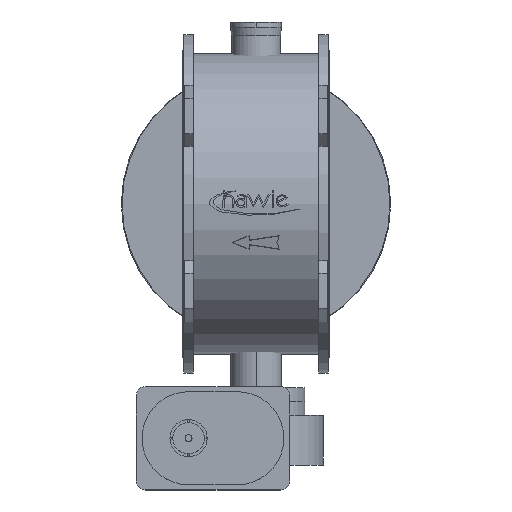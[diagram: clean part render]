
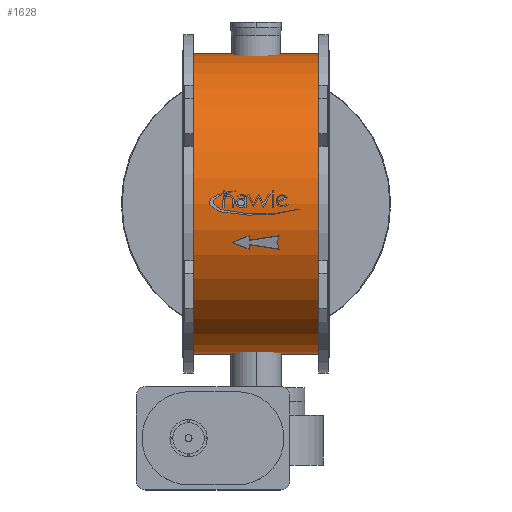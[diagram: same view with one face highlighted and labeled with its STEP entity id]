
A CAD part, top view. The second image highlights one B-rep face of the part: STEP entity #1628.
In plain terms, the highlighted cylindrical face has radius 646 mm (diameter 1292 mm), a partial arc.
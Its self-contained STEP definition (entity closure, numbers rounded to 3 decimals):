
#1628=ADVANCED_FACE('',(#3263),#3264,.T.);
#3263=FACE_OUTER_BOUND('',#5198,.T.);
#3264=CYLINDRICAL_SURFACE('',#5199,646.0);
#5198=EDGE_LOOP('',(#8397,#8398,#8399,#8400));
#5199=AXIS2_PLACEMENT_3D('',#8401,#8402,#8403);
#8397=ORIENTED_EDGE('',*,*,#11339,.T.);
#8398=ORIENTED_EDGE('',*,*,#11295,.T.);
#8399=ORIENTED_EDGE('',*,*,#11340,.T.);
#8400=ORIENTED_EDGE('',*,*,#10471,.T.);
#8401=CARTESIAN_POINT('',(-585.0,0.,0.0));
#8402=DIRECTION('',(1.0,0.,0.0));
#8403=DIRECTION('',(0.,-1.0,0.0));
#10471=EDGE_CURVE('',#12415,#12414,#12417,.T.);
#11295=EDGE_CURVE('',#13653,#13654,#13655,.T.);
#11339=EDGE_CURVE('',#12414,#13653,#13706,.T.);
#11340=EDGE_CURVE('',#13654,#12415,#13707,.T.);
#12414=VERTEX_POINT('',#15002);
#12415=VERTEX_POINT('',#15003);
#12417=CIRCLE('',#15005,646.0);
#13653=VERTEX_POINT('',#16534);
#13654=VERTEX_POINT('',#16535);
#13655=CIRCLE('',#16536,646.0);
#13706=LINE('',#16602,#16603);
#13707=LINE('',#16604,#16605);
#15002=CARTESIAN_POINT('',(-585.0,-646.0,0.0));
#15003=CARTESIAN_POINT('',(-585.0,646.0,0.));
#15005=AXIS2_PLACEMENT_3D('',#17716,#17717,#17718);
#16534=CARTESIAN_POINT('',(-45.0,-646.0,0.0));
#16535=CARTESIAN_POINT('',(-45.0,646.0,0.));
#16536=AXIS2_PLACEMENT_3D('',#18993,#18994,#18995);
#16602=CARTESIAN_POINT('',(-585.0,-646.0,0.));
#16603=VECTOR('',#19035,1.0);
#16604=CARTESIAN_POINT('',(-585.0,646.0,0.));
#16605=VECTOR('',#19036,1.0);
#17716=CARTESIAN_POINT('',(-585.0,0.,0.0));
#17717=DIRECTION('',(1.0,0.,0.0));
#17718=DIRECTION('',(0.,-1.0,0.0));
#18993=CARTESIAN_POINT('',(-45.0,0.,0.0));
#18994=DIRECTION('',(-1.0,0.,0.0));
#18995=DIRECTION('',(0.,-1.0,0.0));
#19035=DIRECTION('',(1.0,0.,0.0));
#19036=DIRECTION('',(-1.0,0.,-0.0));
